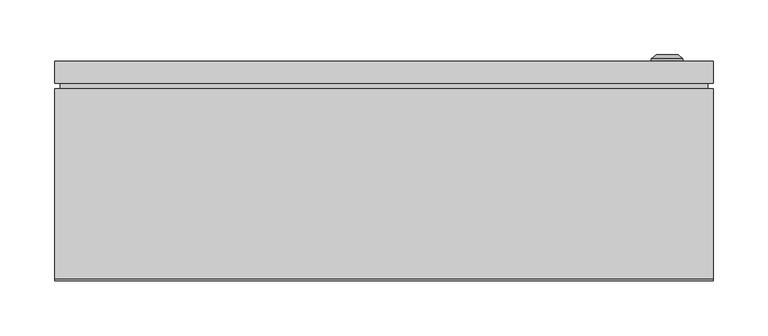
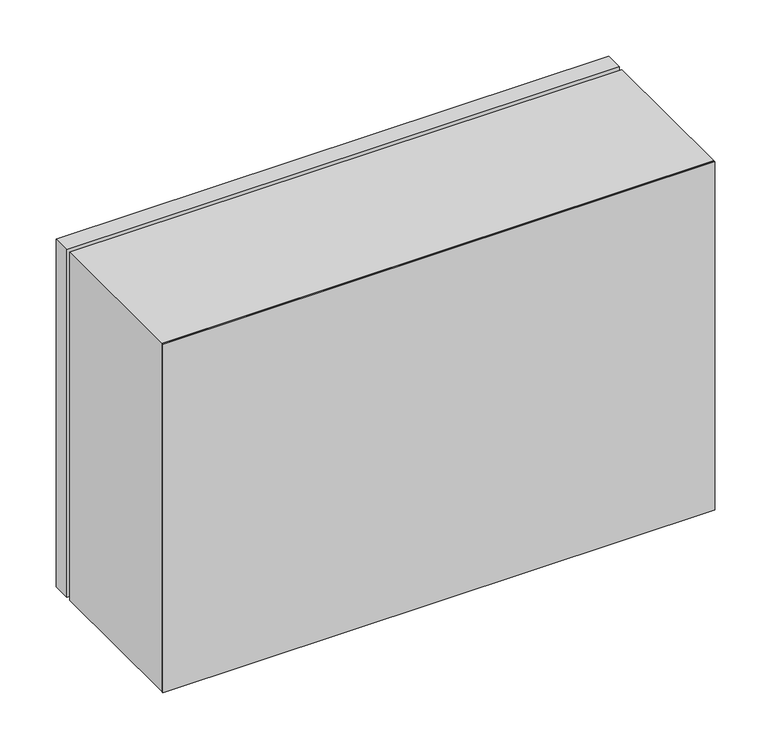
"""IFC4 building model written with IfcOpenShell, lengths in millimetres: proxy geometry, ЩМП_IP65 : ЩМП-4.6.2_400х600х200."""

from ifc_helpers import new_model, si_unit, frame, origin, origin_with_axes, place, context, project, spatial, polyline, circle_curve, outline, extrude, source, transform, mapped, element, save
from ifc_brep_helpers import plane_surface, cylinder_surface, revolved_surface, advanced_brep


def electrical_equipment_2ce05f25(model_context):
    return source(origin(), model_context, "Body", "SolidModel", [
        extrude(outline(polyline([(295.0, 175.0), (-295.0, 175.0), (-295.0, 180.0), (295.0, 180.0), (295.0, 175.0)])), frame((0.0, 0.0, 5.0), z_axis=(0.0, 0.0, 1.0), x_axis=(1.0, 0.0, 0.0)), (0.0, 0.0, 1.0), 390.0),
        extrude(outline(polyline([(300.0, 180.0), (-300.0, 180.0), (-300.0, 200.0), (300.0, 200.0), (300.0, 180.0)])), origin_with_axes(), (0.0, 0.0, 1.0), 400.0),
        advanced_brep(
        [(243.669873, 200.0, 197.5), (272.330127, 200.0, 197.5), (258.0, 200.0, 197.5), (243.669873, 202.366592, 197.5), (272.330127, 202.366592, 197.5), (248.0, 206.0, 197.5), (268.0, 206.0, 197.5), (256.1080471, 206.0, 197.5), (259.8919529, 206.0, 197.5), (256.1080471, 204.9822294, 197.5), (259.8919529, 204.9822294, 197.5), (258.0, 204.9822294, 197.5)],
        [
            (0, 1, circle_curve(frame((258.0, 200.0, 197.5), z_axis=(0.0, -1.0, 0.0), x_axis=(1.0, 0.0, 0.0)), 14.330127)),
            (1, 2),
            (2, 0),
            (1, 0, circle_curve(frame((258.0, 200.0, 197.5), z_axis=(0.0, -1.0, 0.0), x_axis=(1.0, 0.0, 0.0)), 14.330127)),
            (3, 4, circle_curve(frame((258.0, 202.366592, 197.5), z_axis=(0.0, -1.0, 0.0), x_axis=(1.0, 0.0, 0.0)), 14.330127)),
            (4, 1),
            (0, 3),
            (4, 3, circle_curve(frame((258.0, 202.366592, 197.5), z_axis=(0.0, -1.0, 0.0), x_axis=(1.0, 0.0, 0.0)), 14.330127)),
            (5, 6, circle_curve(frame((258.0, 206.0, 197.5), z_axis=(0.0, -1.0, 0.0), x_axis=(1.0, 0.0, 0.0)), 10.0)),
            (6, 4),
            (3, 5),
            (6, 5, circle_curve(frame((258.0, 206.0, 197.5), z_axis=(0.0, -1.0, 0.0), x_axis=(1.0, 0.0, 0.0)), 10.0)),
            (7, 8, circle_curve(frame((258.0, 206.0, 197.5), z_axis=(0.0, -1.0, 0.0), x_axis=(1.0, 0.0, 0.0)), 1.8919529)),
            (8, 6),
            (5, 7),
            (8, 7, circle_curve(frame((258.0, 206.0, 197.5), z_axis=(0.0, -1.0, 0.0), x_axis=(1.0, 0.0, 0.0)), 1.8919529)),
            (9, 10, circle_curve(frame((258.0, 204.9822294, 197.5), z_axis=(0.0, -1.0, 0.0), x_axis=(1.0, 0.0, 0.0)), 1.8919529)),
            (10, 8),
            (7, 9),
            (10, 9, circle_curve(frame((258.0, 204.9822294, 197.5), z_axis=(0.0, -1.0, 0.0), x_axis=(1.0, 0.0, 0.0)), 1.8919529)),
            (11, 10),
            (9, 11),
        ],
        [
            plane_surface(frame((258.0, 200.0, 197.5), z_axis=(0.0, -1.0, 0.0), x_axis=(1.0, 0.0, 0.0))),
            cylinder_surface(frame((258.0, 213.1348851, 197.5), z_axis=(0.0, 1.0, 0.0), x_axis=(1.0, 0.0, 0.0)), 14.330127),
            revolved_surface(polyline([(272.330127, 202.366592, 197.5), (268.0, 206.0, 197.5)]), (258.0, 213.1348851, 197.5), (0.0, 1.0, 0.0)),
            plane_surface(frame((258.0, 206.0, 197.5), z_axis=(0.0, 1.0, 0.0), x_axis=(1.0, 0.0, 0.0))),
            revolved_surface(polyline([(259.8919529, 206.0, 197.5), (259.8919529, 204.9822294, 197.5)]), (258.0, 213.1348851, 197.5), (0.0, 1.0, 0.0)),
            plane_surface(frame((258.0, 204.9822294, 197.5), z_axis=(0.0, 1.0, 0.0), x_axis=(1.0, 0.0, 0.0))),
        ],
        [
            (0, [[1, 2, 3]]),
            (0, [[4, -3, -2]]),
            (1, [[5, 6, -1, 7]]),
            (1, [[8, -7, -4, -6]]),
            (2, [[9, 10, -5, 11]]),
            (2, [[12, -11, -8, -10]]),
            (3, [[13, 14, -9, 15]]),
            (3, [[16, -15, -12, -14]]),
            (4, [[17, 18, -13, 19]]),
            (4, [[20, -19, -16, -18]]),
            (5, [[21, -17, 22]]),
            (5, [[-22, -20, -21]]),
        ],
    ),
        extrude(outline(polyline([(400.0, -300.0033905), (0.0, -300.0033905), (0.0, 299.9966095), (400.0, 299.9966095), (400.0, -300.0033905)]), holes=[polyline([(365.0, -268.0033905), (365.0, 267.9966095), (30.0, 267.9966095), (30.0, -268.0033905), (365.0, -268.0033905)])]), frame((0.0, 2.0, 0.0), z_axis=(0.0, 1.0, 0.0), x_axis=(0.0, 0.0, 1.0)), (0.0, 0.0, 1.0), 173.0),
        extrude(outline(polyline([(300.0, 0.0), (-300.0, 0.0), (-300.0, 2.0), (300.0, 2.0), (300.0, 0.0)])), origin_with_axes(), (0.0, 0.0, 1.0), 400.0),
    ])


if __name__ == "__main__":
    model = new_model("IFC4")
    model_context = context("Model", 3, world=origin())
    ifc_project = project(units=[si_unit("LENGTHUNIT", "METRE", prefix="MILLI")], contexts=[model_context])
    site = spatial("IfcSite", under=ifc_project)
    building = spatial("IfcBuilding", under=site)
    placement = place(None, origin())
    electrical_equipment_shape = electrical_equipment_2ce05f25(model_context)
    element("IfcBuildingElementProxy", 1, Name="ЩМП_IP65 : ЩМП-4.6.2_400х600х200", ObjectType="ЩМП_IP65 : ЩМП-4.6.2_400х600х200", at=placement, inside=building, context=model_context, shape_type="MappedRepresentation", body=[
        mapped(electrical_equipment_shape, transform((0.0, 0.0, 0.0), x_axis=(1.0, 0.0, 0.0), y_axis=(0.0, 1.0, 0.0), z_axis=(0.0, 0.0, 1.0))),
    ])
    save(model, "model.ifc")
